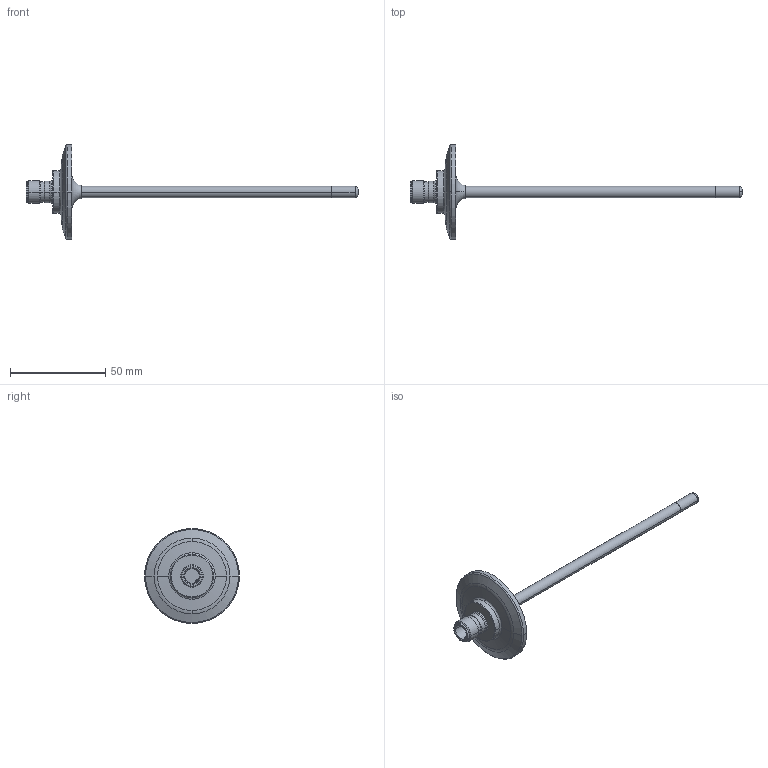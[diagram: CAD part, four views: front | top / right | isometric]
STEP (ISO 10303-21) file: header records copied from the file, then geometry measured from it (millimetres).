
FILE_DESCRIPTION( ( '' ), '1' );
FILE_NAME( '//expscmdclustefs.cadenas.external/client_exchange/iodir/jobs/output/wkb51981682_no0/STEP/TM4941_2_03.stp', '2012-12-05T07:48:23', ( '' ), ( '' ), ' ', ' ', ' ' );
FILE_SCHEMA( ( 'CONFIG_CONTROL_DESIGN' ) );
Length unit declared in the file: millimetre
Products named in the file (1): 1
Bounding box: 174 x 49.8 x 49.8 mm (x, y, z)
Volume: 16034.2 mm3; surface area: 8388.6 mm2
Topology: 1 solids, 1 shells, 78 faces, 201 edges, 133 vertices
Faces by surface type: torus 26, cylinder 21, cone 18, plane 13
Entity records: 2520 total; most frequent: DIRECTION 514, CARTESIAN_POINT 413, ORIENTED_EDGE 402, AXIS2_PLACEMENT_3D 234, EDGE_CURVE 201, CIRCLE 155, VERTEX_POINT 133, EDGE_LOOP 86
